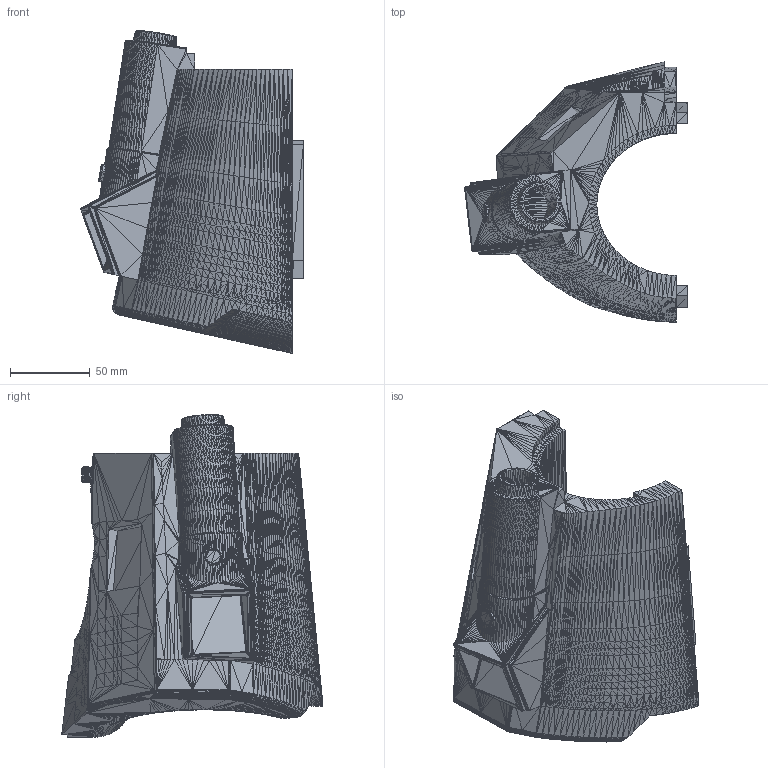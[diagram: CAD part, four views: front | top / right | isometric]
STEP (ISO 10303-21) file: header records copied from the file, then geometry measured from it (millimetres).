
FILE_DESCRIPTION((''),'2;1');
FILE_NAME('Center Back Outer', '2025-03-27T07:25:15', (''), (''), 'ImageToStl.com STEP Converter','', '');
FILE_SCHEMA(('AUTOMOTIVE_DESIGN_CC2'));
Length unit declared in the file: metre
Products named in the file (1): product0
Bounding box: 139.53 x 163.12 x 202.16 mm (x, y, z)
Surface area: 111802.8 mm2 (no closed solid volume)
Topology: 0 solids, 23544 shells, 23544 faces, 70632 edges, 11778 vertices
Faces by surface type: plane 23544
Entity records: 565103 total; most frequent: DIRECTION 117722, ORIENTED_EDGE 70632, EDGE_CURVE 70632, LINE 70632, VECTOR 70632, AXIS2_PLACEMENT_3D 23545, STYLED_ITEM 23545, FACE_SURFACE 23544
